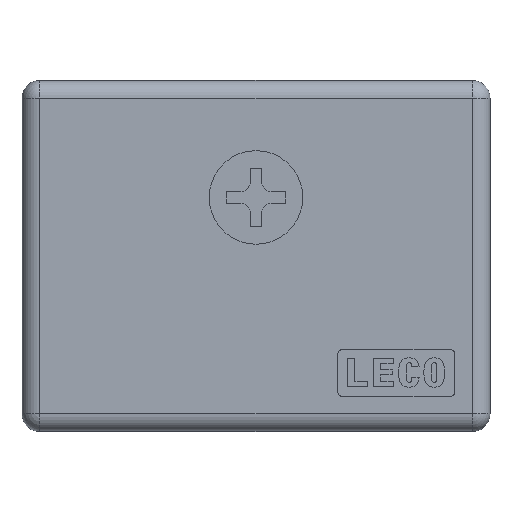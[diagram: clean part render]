
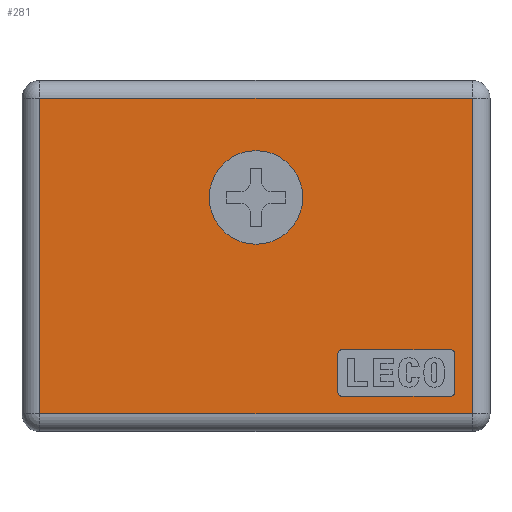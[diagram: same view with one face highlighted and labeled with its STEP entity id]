
A CAD part, top view. The second image highlights one B-rep face of the part: STEP entity #281.
In plain terms, the highlighted planar face has unit normal (0, 0, 1).
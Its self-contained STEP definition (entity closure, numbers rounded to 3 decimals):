
#281=ADVANCED_FACE('',(#629,#630,#631),#632,.T.);
#629=FACE_BOUND('',#1065,.T.);
#630=FACE_OUTER_BOUND('',#1066,.T.);
#631=FACE_BOUND('',#1067,.T.);
#632=PLANE('',#1068);
#1065=EDGE_LOOP('',(#1677,#1678,#1679,#1680,#1681,#1682,#1683,#1684));
#1066=EDGE_LOOP('',(#1685,#1686,#1687,#1688));
#1067=EDGE_LOOP('',(#1689));
#1068=AXIS2_PLACEMENT_3D('',#1690,#1691,#1692);
#1677=ORIENTED_EDGE('',*,*,#2801,.F.);
#1678=ORIENTED_EDGE('',*,*,#2802,.F.);
#1679=ORIENTED_EDGE('',*,*,#2707,.F.);
#1680=ORIENTED_EDGE('',*,*,#2803,.F.);
#1681=ORIENTED_EDGE('',*,*,#2804,.F.);
#1682=ORIENTED_EDGE('',*,*,#2692,.F.);
#1683=ORIENTED_EDGE('',*,*,#2805,.F.);
#1684=ORIENTED_EDGE('',*,*,#2752,.F.);
#1685=ORIENTED_EDGE('',*,*,#2806,.T.);
#1686=ORIENTED_EDGE('',*,*,#2807,.T.);
#1687=ORIENTED_EDGE('',*,*,#2759,.T.);
#1688=ORIENTED_EDGE('',*,*,#2808,.T.);
#1689=ORIENTED_EDGE('',*,*,#2740,.T.);
#1690=CARTESIAN_POINT('',(-25.0,-19.444,3.0));
#1691=DIRECTION('',(0.0,0.0,1.0));
#1692=DIRECTION('',(1.0,0.0,0.0));
#2692=EDGE_CURVE('',#3225,#3226,#3227,.T.);
#2707=EDGE_CURVE('',#3251,#3252,#3253,.T.);
#2740=EDGE_CURVE('',#3312,#3312,#3313,.T.);
#2752=EDGE_CURVE('',#3333,#3334,#3335,.T.);
#2759=EDGE_CURVE('',#3347,#3345,#3348,.T.);
#2801=EDGE_CURVE('',#3411,#3333,#3412,.T.);
#2802=EDGE_CURVE('',#3252,#3411,#3413,.T.);
#2803=EDGE_CURVE('',#3414,#3251,#3415,.T.);
#2804=EDGE_CURVE('',#3226,#3414,#3416,.T.);
#2805=EDGE_CURVE('',#3334,#3225,#3417,.T.);
#2806=EDGE_CURVE('',#3418,#3419,#3420,.T.);
#2807=EDGE_CURVE('',#3419,#3347,#3421,.T.);
#2808=EDGE_CURVE('',#3345,#3418,#3422,.T.);
#3225=VERTEX_POINT('',#3977);
#3226=VERTEX_POINT('',#3978);
#3227=CIRCLE('',#3979,0.4);
#3251=VERTEX_POINT('',#4024);
#3252=VERTEX_POINT('',#4025);
#3253=LINE('',#4026,#4027);
#3312=VERTEX_POINT('',#4117);
#3313=CIRCLE('',#4118,4.0);
#3333=VERTEX_POINT('',#4146);
#3334=VERTEX_POINT('',#4147);
#3335=CIRCLE('',#4148,0.4);
#3345=VERTEX_POINT('',#4161);
#3347=VERTEX_POINT('',#4163);
#3348=LINE('',#4164,#4165);
#3411=VERTEX_POINT('',#4245);
#3412=LINE('',#4246,#4247);
#3413=CIRCLE('',#4248,0.4);
#3414=VERTEX_POINT('',#4249);
#3415=CIRCLE('',#4250,0.4);
#3416=LINE('',#4251,#4252);
#3417=LINE('',#4253,#4254);
#3418=VERTEX_POINT('',#4255);
#3419=VERTEX_POINT('',#4256);
#3420=LINE('',#4257,#4258);
#3421=LINE('',#4259,#4260);
#3422=LINE('',#4261,#4262);
#3977=CARTESIAN_POINT('',(-18.0,-6.844,3.0));
#3978=CARTESIAN_POINT('',(-18.4,-6.444,3.0));
#3979=AXIS2_PLACEMENT_3D('',#4895,#4896,#4897);
#4024=CARTESIAN_POINT('',(-22.0,-6.844,3.0));
#4025=CARTESIAN_POINT('',(-22.0,-16.044,3.0));
#4026=CARTESIAN_POINT('',(-22.0,-6.844,3.0));
#4027=VECTOR('',#4911,1.0);
#4117=CARTESIAN_POINT('',(-1.0,0.556,3.0));
#4118=AXIS2_PLACEMENT_3D('',#4956,#4957,#4958);
#4146=CARTESIAN_POINT('',(-18.4,-16.444,3.0));
#4147=CARTESIAN_POINT('',(-18.,-16.044,3.0));
#4148=AXIS2_PLACEMENT_3D('',#4967,#4968,#4969);
#4161=CARTESIAN_POINT('',(3.5,19.056,3.0));
#4163=CARTESIAN_POINT('',(3.5,-17.944,3.0));
#4164=CARTESIAN_POINT('',(3.5,20.556,3.0));
#4165=VECTOR('',#4979,1.0);
#4245=CARTESIAN_POINT('',(-21.6,-16.444,3.0));
#4246=CARTESIAN_POINT('',(-21.6,-16.444,3.0));
#4247=VECTOR('',#5036,1.0);
#4248=AXIS2_PLACEMENT_3D('',#5037,#5038,#5039);
#4249=CARTESIAN_POINT('',(-21.6,-6.444,3.0));
#4250=AXIS2_PLACEMENT_3D('',#5040,#5041,#5042);
#4251=CARTESIAN_POINT('',(-18.4,-6.444,3.0));
#4252=VECTOR('',#5043,1.0);
#4253=CARTESIAN_POINT('',(-18.,-16.044,3.0));
#4254=VECTOR('',#5044,1.0);
#4255=CARTESIAN_POINT('',(-23.5,19.056,3.0));
#4256=CARTESIAN_POINT('',(-23.5,-17.944,3.0));
#4257=CARTESIAN_POINT('',(-23.5,-19.444,3.0));
#4258=VECTOR('',#5045,1.0);
#4259=CARTESIAN_POINT('',(5.0,-17.944,3.0));
#4260=VECTOR('',#5046,1.0);
#4261=CARTESIAN_POINT('',(-25.0,19.056,3.0));
#4262=VECTOR('',#5047,1.0);
#4895=CARTESIAN_POINT('',(-18.4,-6.844,3.0));
#4896=DIRECTION('',(0.0,0.0,1.0));
#4897=DIRECTION('',(0.0,-1.0,0.0));
#4911=DIRECTION('',(0.0,-1.0,0.0));
#4956=CARTESIAN_POINT('',(-5.0,0.556,3.0));
#4957=DIRECTION('',(0.0,0.0,-1.0));
#4958=DIRECTION('',(1.0,0.0,0.0));
#4967=CARTESIAN_POINT('',(-18.4,-16.044,3.0));
#4968=DIRECTION('',(0.0,0.0,1.0));
#4969=DIRECTION('',(0.0,-1.0,0.0));
#4979=DIRECTION('',(0.0,1.0,0.0));
#5036=DIRECTION('',(1.0,0.0,0.0));
#5037=CARTESIAN_POINT('',(-21.6,-16.044,3.0));
#5038=DIRECTION('',(0.0,0.0,1.0));
#5039=DIRECTION('',(0.0,-1.0,0.0));
#5040=CARTESIAN_POINT('',(-21.6,-6.844,3.0));
#5041=DIRECTION('',(0.0,0.0,1.0));
#5042=DIRECTION('',(0.0,-1.0,0.0));
#5043=DIRECTION('',(-1.0,0.,0.0));
#5044=DIRECTION('',(0.,1.0,0.0));
#5045=DIRECTION('',(0.0,-1.0,0.0));
#5046=DIRECTION('',(1.0,0.0,0.0));
#5047=DIRECTION('',(-1.0,0.0,0.0));
